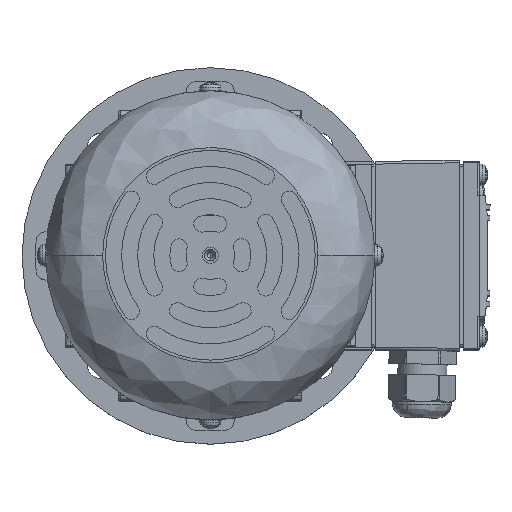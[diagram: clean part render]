
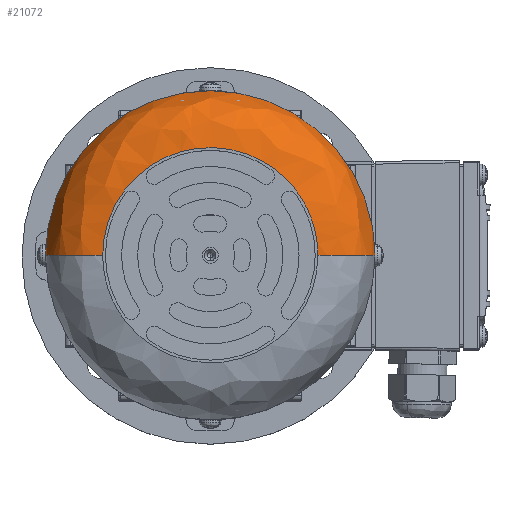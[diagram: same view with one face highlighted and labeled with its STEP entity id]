
A CAD part, top view. The second image highlights one B-rep face of the part: STEP entity #21072.
In plain terms, the highlighted free-form (B-spline) face has degree [3, 3] with [4, 7] control points.
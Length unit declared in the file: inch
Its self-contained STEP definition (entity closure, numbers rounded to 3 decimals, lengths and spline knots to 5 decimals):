
#21072 = ADVANCED_FACE ( 'NONE', ( #80549 ), #77990, .T. ) ;
#21957 = ORIENTED_EDGE ( 'NONE', *, *, #51421, .F. ) ;
#21959 = ORIENTED_EDGE ( 'NONE', *, *, #51408, .F. ) ;
#21961 = ORIENTED_EDGE ( 'NONE', *, *, #51419, .T. ) ;
#21963 = ORIENTED_EDGE ( 'NONE', *, *, #47102, .T. ) ;
#32555 = CARTESIAN_POINT ( 'NONE',  ( 2.40945, 0., 0.83465 ) ) ;
#32558 = CARTESIAN_POINT ( 'NONE',  ( -2.40945, 0., 0.83465 ) ) ;
#32560 = CARTESIAN_POINT ( 'NONE',  ( -1.57481, 0., 0. ) ) ;
#32561 = CARTESIAN_POINT ( 'NONE',  ( 1.57481, 0., 0. ) ) ;
#47102 = EDGE_CURVE ( 'NONE', #67633, #67632, #56291, .T. ) ;
#51408 = EDGE_CURVE ( 'NONE', #67627, #67630, #102831, .T. ) ;
#51419 = EDGE_CURVE ( 'NONE', #67627, #67633, #102851, .T. ) ;
#51421 = EDGE_CURVE ( 'NONE', #67630, #67632, #102864, .T. ) ;
#56291 =( BOUNDED_CURVE ( )  B_SPLINE_CURVE ( 3, ( #67003, #66974, #67004, #67005 ),
 .UNSPECIFIED., .F., .T. ) 
 B_SPLINE_CURVE_WITH_KNOTS ( ( 4, 4 ),
 ( 0.7578, 1.2578 ),
 .UNSPECIFIED. ) 
 CURVE ( )  GEOMETRIC_REPRESENTATION_ITEM ( )  RATIONAL_B_SPLINE_CURVE ( ( 1., 0.333, 0.333, 1. ) ) 
 REPRESENTATION_ITEM ( '' )  );
#64562 = EDGE_LOOP ( 'NONE', ( #21957, #21959, #21961, #21963 ) ) ;
#66974 = CARTESIAN_POINT ( 'NONE',  ( 1.5748, 3.14961, 0. ) ) ;
#67003 = CARTESIAN_POINT ( 'NONE',  ( 1.57481, 0., 0. ) ) ;
#67004 = CARTESIAN_POINT ( 'NONE',  ( -1.5748, 3.14961, 0. ) ) ;
#67005 = CARTESIAN_POINT ( 'NONE',  ( -1.57481, 0., 0. ) ) ;
#67627 = VERTEX_POINT ( 'NONE', #32555 ) ;
#67630 = VERTEX_POINT ( 'NONE', #32558 ) ;
#67632 = VERTEX_POINT ( 'NONE', #32560 ) ;
#67633 = VERTEX_POINT ( 'NONE', #32561 ) ;
#77990 =( BOUNDED_SURFACE ( )  B_SPLINE_SURFACE ( 3, 3, ( 
 ( #80550, #80559, #80560, #80562, #80564, #80566, #80568 ),
 ( #80570, #80571, #80573, #80575, #80577, #80579, #80581 ),
 ( #80582, #80584, #80586, #80588, #80590, #80592, #80593 ),
 ( #80595, #80597, #80599, #80601, #80602, #80604, #80606 ) ),
 .UNSPECIFIED., .F., .F., .F. ) 
 B_SPLINE_SURFACE_WITH_KNOTS ( ( 4, 4 ),
 ( 4, 3, 4 ),
 ( 0., 1. ),
 ( 0., 0.5, 1. ),
 .UNSPECIFIED. ) 
 GEOMETRIC_REPRESENTATION_ITEM ( )  RATIONAL_B_SPLINE_SURFACE ( (
 ( 1., 0.805, 0.805, 1., 0.805, 0.805, 1.),
 ( 0.805, 0.648, 0.648, 0.805, 0.648, 0.648, 0.805),
 ( 0.805, 0.648, 0.648, 0.805, 0.648, 0.648, 0.805),
 ( 1., 0.805, 0.805, 1., 0.805, 0.805, 1.) ) ) 
 REPRESENTATION_ITEM ( '' )  SURFACE ( )  );
#80549 = FACE_OUTER_BOUND ( 'NONE', #64562, .T. ) ;
#80550 = CARTESIAN_POINT ( 'NONE',  ( 2.40945, 0., 0.83465 ) ) ;
#80559 = CARTESIAN_POINT ( 'NONE',  ( 2.40945, 1.41142, 0.83465 ) ) ;
#80560 = CARTESIAN_POINT ( 'NONE',  ( 1.41142, 2.40945, 0.83465 ) ) ;
#80562 = CARTESIAN_POINT ( 'NONE',  ( 0., 2.40945, 0.83465 ) ) ;
#80564 = CARTESIAN_POINT ( 'NONE',  ( -1.41142, 2.40945, 0.83465 ) ) ;
#80566 = CARTESIAN_POINT ( 'NONE',  ( -2.40945, 1.41142, 0.83465 ) ) ;
#80568 = CARTESIAN_POINT ( 'NONE',  ( -2.40945, 0., 0.83465 ) ) ;
#80570 = CARTESIAN_POINT ( 'NONE',  ( 2.40945, 0., 0.34572 ) ) ;
#80571 = CARTESIAN_POINT ( 'NONE',  ( 2.40945, 1.41142, 0.34572 ) ) ;
#80573 = CARTESIAN_POINT ( 'NONE',  ( 1.41142, 2.40945, 0.34572 ) ) ;
#80575 = CARTESIAN_POINT ( 'NONE',  ( 0., 2.40945, 0.34572 ) ) ;
#80577 = CARTESIAN_POINT ( 'NONE',  ( -1.41142, 2.40945, 0.34572 ) ) ;
#80579 = CARTESIAN_POINT ( 'NONE',  ( -2.40945, 1.41142, 0.34572 ) ) ;
#80581 = CARTESIAN_POINT ( 'NONE',  ( -2.40945, 0., 0.34572 ) ) ;
#80582 = CARTESIAN_POINT ( 'NONE',  ( 2.06373, 0., 0. ) ) ;
#80584 = CARTESIAN_POINT ( 'NONE',  ( 2.06373, 1.2089, 0. ) ) ;
#80586 = CARTESIAN_POINT ( 'NONE',  ( 1.2089, 2.06373, 0. ) ) ;
#80588 = CARTESIAN_POINT ( 'NONE',  ( 0., 2.06373, 0. ) ) ;
#80590 = CARTESIAN_POINT ( 'NONE',  ( -1.2089, 2.06373, 0. ) ) ;
#80592 = CARTESIAN_POINT ( 'NONE',  ( -2.06373, 1.2089, 0. ) ) ;
#80593 = CARTESIAN_POINT ( 'NONE',  ( -2.06373, 0., 0. ) ) ;
#80595 = CARTESIAN_POINT ( 'NONE',  ( 1.5748, 0., 0. ) ) ;
#80597 = CARTESIAN_POINT ( 'NONE',  ( 1.5748, 0.9225, 0. ) ) ;
#80599 = CARTESIAN_POINT ( 'NONE',  ( 0.9225, 1.5748, 0. ) ) ;
#80601 = CARTESIAN_POINT ( 'NONE',  ( 0., 1.5748, 0. ) ) ;
#80602 = CARTESIAN_POINT ( 'NONE',  ( -0.9225, 1.5748, 0. ) ) ;
#80604 = CARTESIAN_POINT ( 'NONE',  ( -1.5748, 0.9225, 0. ) ) ;
#80606 = CARTESIAN_POINT ( 'NONE',  ( -1.5748, 0., 0. ) ) ;
#102831 = CIRCLE ( 'NONE', #102835, 2.40945 ) ;
#102835 = AXIS2_PLACEMENT_3D ( 'NONE', #106649, #106650, #106651 ) ;
#102851 = CIRCLE ( 'NONE', #102861, 0.83465 ) ;
#102861 = AXIS2_PLACEMENT_3D ( 'NONE', #106811, #106812, #106813 ) ;
#102864 = CIRCLE ( 'NONE', #102870, 0.83465 ) ;
#102870 = AXIS2_PLACEMENT_3D ( 'NONE', #106821, #106822, #106823 ) ;
#106649 = CARTESIAN_POINT ( 'NONE',  ( 0., 0., 0.83465 ) ) ;
#106650 = DIRECTION ( 'NONE',  ( 0., 0., 1. ) ) ;
#106651 = DIRECTION ( 'NONE',  ( 1., 0., 0. ) ) ;
#106811 = CARTESIAN_POINT ( 'NONE',  ( 1.5748, 0., 0.83465 ) ) ;
#106812 = DIRECTION ( 'NONE',  ( 0., 1., 0. ) ) ;
#106813 = DIRECTION ( 'NONE',  ( 1., 0., 0. ) ) ;
#106821 = CARTESIAN_POINT ( 'NONE',  ( -1.5748, 0., 0.83465 ) ) ;
#106822 = DIRECTION ( 'NONE',  ( 0., -1., 0. ) ) ;
#106823 = DIRECTION ( 'NONE',  ( -1., 0., 0. ) ) ;
